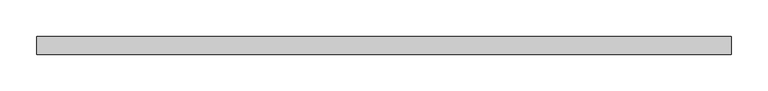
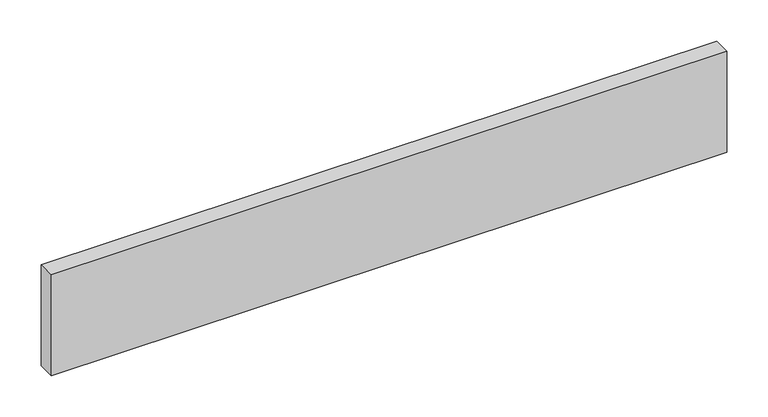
"""IFC4 building model written with IfcOpenShell, lengths in millimetres: plate geometry, Системная панель : С остеклением."""

from ifc_helpers import new_model, si_unit, origin, origin_with_axes, place, context, project, spatial, polyline, outline, extrude, source, transform, mapped, element, save


def plate_8227e4a6(model_context):
    return source(origin(), model_context, "Body", "SweptSolid", [
        extrude(outline(polyline([(475.0, 24.5), (-475.0, 24.5), (-475.0, 49.5), (475.0, 49.5), (475.0, 24.5)])), origin_with_axes(), (0.0, 0.0, 1.0), 150.0),
    ])


if __name__ == "__main__":
    model = new_model("IFC4")
    model_context = context("Model", 3, world=origin())
    ifc_project = project(units=[si_unit("LENGTHUNIT", "METRE", prefix="MILLI")], contexts=[model_context])
    site = spatial("IfcSite", under=ifc_project)
    building = spatial("IfcBuilding", under=site)
    placement = place(None, origin())
    plate_shape = plate_8227e4a6(model_context)
    element("IfcPlate", 1, ObjectType="Системная панель : С остеклением", at=placement, inside=building, context=model_context, shape_type="MappedRepresentation", body=[
        mapped(plate_shape, transform((0.0, 0.0, 0.0), x_axis=(1.0, 0.0, 0.0), y_axis=(0.0, 1.0, 0.0), z_axis=(0.0, 0.0, 1.0))),
    ])
    save(model, "model.ifc")
